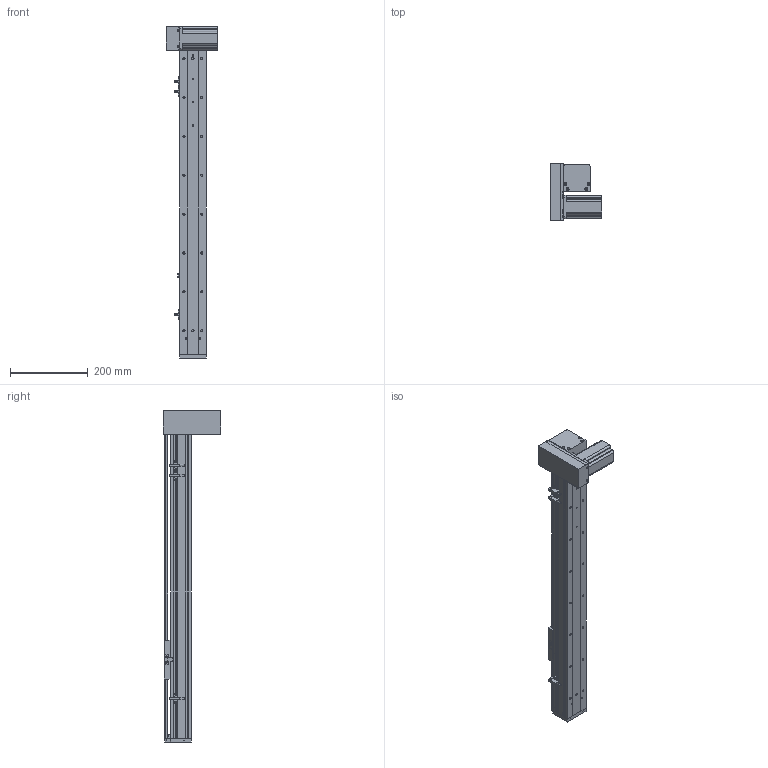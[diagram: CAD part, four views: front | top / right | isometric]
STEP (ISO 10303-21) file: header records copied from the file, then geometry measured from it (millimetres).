
FILE_DESCRIPTION (( 'STEP AP203' ), '1' );
FILE_NAME ('ML68-S600-DR.STEP', '2016-08-05T00:40:35', ( '' ), ( '' ), 'SwSTEP 2.0', 'SolidWorks 2014', '' );
FILE_SCHEMA (( 'CONFIG_CONTROL_DESIGN' ));
Length unit declared in the file: millimetre
Products named in the file (12): ML68-S600-DR; 換覜ん; QS68左右折电机板罩子; QS68酘衵殏萇儂啣; ML68滅鳥啣盓傅輸; ML68奻裔^ML68-S600-DR; 葩璃 ML68菁釱^ML68-S600-DR; ML68雄赽釱; 三协电机MH201N2_預設; ML68傷啣; ML68-BL傷啣; 60換覜結え
Assembly tree (13 placements, depth 2):
  ML68-S600-DR
    葩璃 ML68菁釱^ML68-S600-DR
    ML68奻裔^ML68-S600-DR
    ML68傷啣
    ML68-BL傷啣
    60換覜結え
    換覜ん  x3
    三协电机MH201N2_預設
    ML68雄赽釱
    QS68酘衵殏萇儂啣
    QS68左右折电机板罩子
    ML68滅鳥啣盓傅輸
Bounding box: 133.5 x 148 x 854 mm (x, y, z)
Volume: 1657193.9 mm3; surface area: 617394.8 mm2
Topology: 13 solids, 13 shells, 923 faces, 2526 edges, 1601 vertices
Faces by surface type: cylinder 422, plane 405, cone 96
Entity records: 29298 total; most frequent: CARTESIAN_POINT 5654, DIRECTION 4788, ORIENTED_EDGE 4552, EDGE_CURVE 2276, AXIS2_PLACEMENT_3D 1731, VERTEX_POINT 1489, LINE 1326, VECTOR 1326
